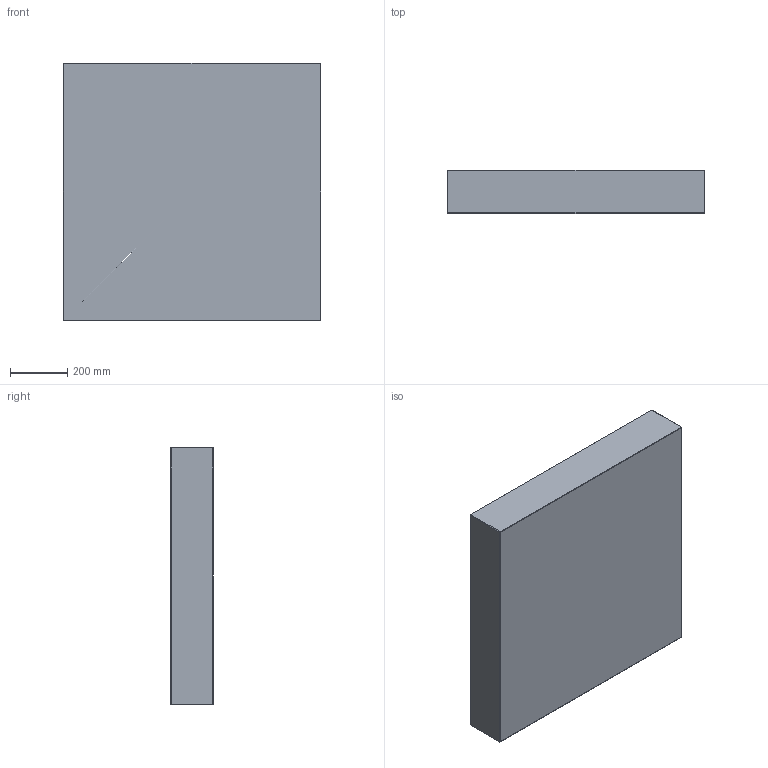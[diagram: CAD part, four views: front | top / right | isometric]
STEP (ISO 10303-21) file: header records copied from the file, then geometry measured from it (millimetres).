
FILE_DESCRIPTION(/* description */ (''),/* implementation_level */ '2;1');
FILE_NAME(/* name */ 'Z:\Ariel\CONCEPTO\MODEL DO 3DS MAX\BRODZIK POSEJDON MODEL KW.stp',/* time_stamp */ '2024-04-22T13:19:50+02:00',/* author */ ('user'),/* organization */ (''),/* preprocessor_version */ 'ST-DEVELOPER v17.2',/* originating_system */ 'Autodesk Inventor 2019',/* authorisation */ '');
FILE_SCHEMA (('AUTOMOTIVE_DESIGN { 1 0 10303 214 3 1 1 }'));
Length unit declared in the file: millimetre
Products named in the file (1): BRODZIK POSEJDON MODEL KW
Bounding box: 900 x 150.23 x 900 mm (x, y, z)
Surface area: 2174403.5 mm2 (no closed solid volume)
Topology: 0 solids, 1 shells, 38 faces, 80 edges, 46 vertices
Faces by surface type: cylinder 14, bspline 9, plane 8, sphere 7
Entity records: 12679 total; most frequent: CARTESIAN_POINT 11875, ORIENTED_EDGE 155, DIRECTION 147, EDGE_CURVE 78, AXIS2_PLACEMENT_3D 59, VERTEX_POINT 44, EDGE_LOOP 41, FACE_OUTER_BOUND 38
